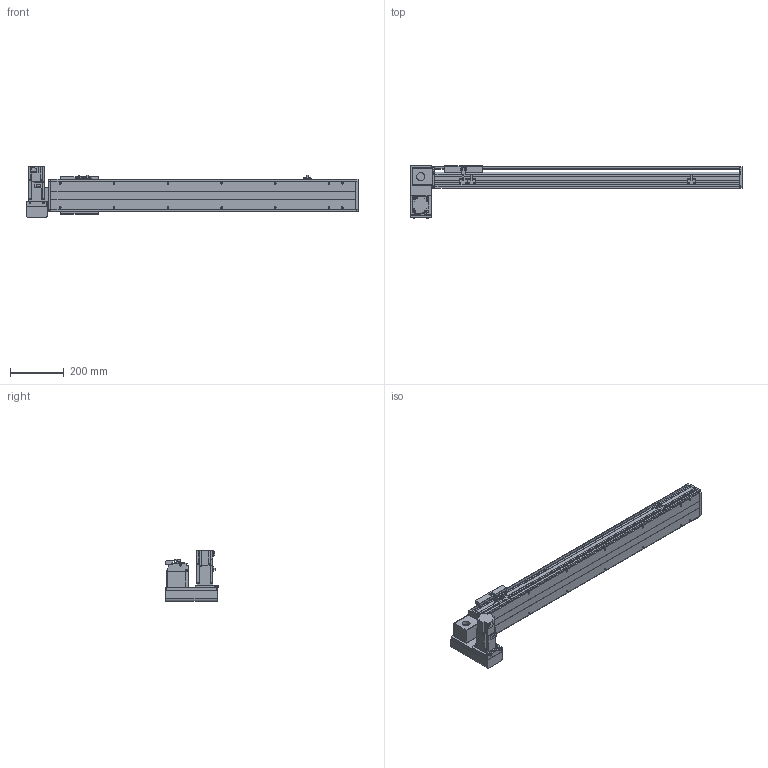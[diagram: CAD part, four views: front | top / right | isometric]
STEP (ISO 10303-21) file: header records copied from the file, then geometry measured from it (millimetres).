
FILE_DESCRIPTION( ( 'STEP AP214' ), '1' );
FILE_NAME( 'x:/temp/worker_27/temp/exporttempdir_6708_44_e1tQ9/format_0/PBS120-P40-S850-LD-T40-C1-N(0).stp', '2022-06-06T00:16:14', ( 'License CC BY-ND 4.0' ), ( 'CADENAS' ), ' ', 'PARTsolutions', ' ' );
FILE_SCHEMA( ( 'AUTOMOTIVE_DESIGN { 1 0 10303 214 1 1 1 1 }' ) );
Length unit declared in the file: millimetre
Products named in the file (7): PBS120-P40-S850-LD-T40-C1-N(0); _PBS120-S850()_body; _PBS120T-LD_motors; _T40-p1; _PBS120_sliser; _PBS120_plant; _PBS120_sensor
Assembly tree (8 placements, depth 2):
  PBS120-P40-S850-LD-T40-C1-N(0)
    _PBS120-S850()_body
    _PBS120T-LD_motors
    _T40-p1
    _PBS120_sliser
    _PBS120_plant
    _PBS120_sensor  x3
Bounding box: 1236 x 196 x 189.7 mm (x, y, z)
Volume: 5472842.1 mm3; surface area: 1056178.9 mm2
Topology: 8 solids, 8 shells, 822 faces, 2146 edges, 1381 vertices
Faces by surface type: plane 547, cylinder 227, cone 46, torus 2
Full cylindrical faces by diameter (mm): 2.459 x6, 3.242 x4, 4 x2, 4.134 x4, 4.5 x10, 4.917 x18, 5.5 x11, 6 x2, 6.6 x1, 7 x2, 8.5 x4, 9 x4, 12 x1, 14 x1, 30 x2, 40 x1, 50 x2
Entity records: 27156 total; most frequent: DIRECTION 3716, CARTESIAN_POINT 3659, ORIENTED_EDGE 3490, EDGE_CURVE 1745, AXIS2_PLACEMENT_3D 1244, LINE 1228, VECTOR 1228, VERTEX_POINT 1187
